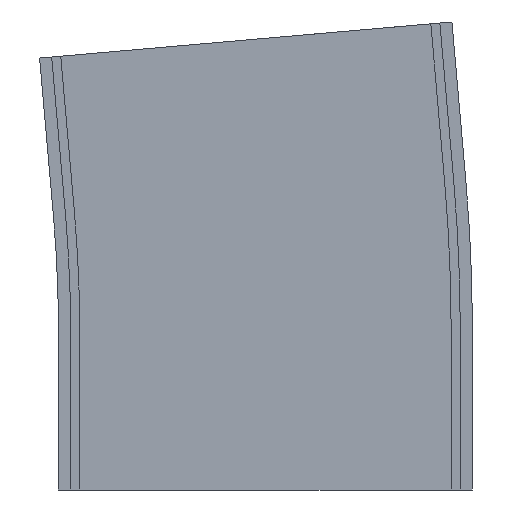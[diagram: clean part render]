
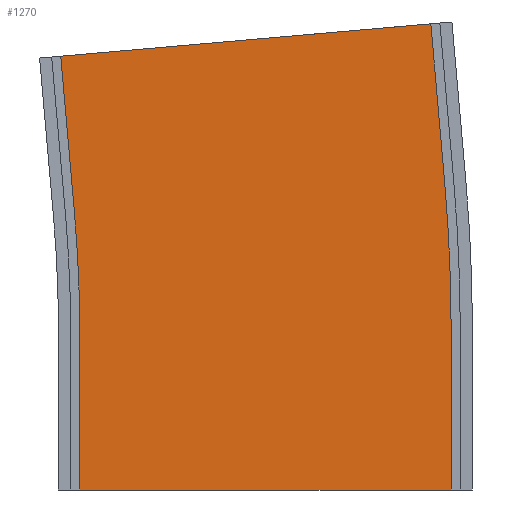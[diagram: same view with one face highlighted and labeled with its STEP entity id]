
A CAD part, left-side view. The second image highlights one B-rep face of the part: STEP entity #1270.
In plain terms, the highlighted planar face has unit normal (-1, 0, 0).
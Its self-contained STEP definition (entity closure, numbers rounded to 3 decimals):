
#6 = EDGE_CURVE ( 'NONE', #1289, #565, #1002, .T. ) ;
#31 = DIRECTION ( 'NONE',  ( -1., 0., 0. ) ) ;
#33 = CARTESIAN_POINT ( 'NONE',  ( -211.5, -61.25, 0. ) ) ;
#34 = FACE_OUTER_BOUND ( 'NONE', #956, .T. ) ;
#44 = LINE ( 'NONE', #640, #1152 ) ;
#74 = LINE ( 'NONE', #958, #452 ) ;
#84 = LINE ( 'NONE', #1332, #117 ) ;
#98 = AXIS2_PLACEMENT_3D ( 'NONE', #333, #31, #568 ) ;
#117 = VECTOR ( 'NONE', #1093, 1000. ) ;
#128 = ORIENTED_EDGE ( 'NONE', *, *, #6, .F. ) ;
#142 = VECTOR ( 'NONE', #1201, 1000. ) ;
#200 = DIRECTION ( 'NONE',  ( 0., 0.087, 0.996 ) ) ;
#226 = CARTESIAN_POINT ( 'NONE',  ( -211.5, -61.25, 52.5 ) ) ;
#253 = VERTEX_POINT ( 'NONE', #1214 ) ;
#257 = ORIENTED_EDGE ( 'NONE', *, *, #1084, .T. ) ;
#279 = DIRECTION ( 'NONE',  ( 0., 0.087, 0.996 ) ) ;
#326 = DIRECTION ( 'NONE',  ( 0., 1., 0. ) ) ;
#333 = CARTESIAN_POINT ( 'NONE',  ( -211.5, 500., 52.5 ) ) ;
#362 = VERTEX_POINT ( 'NONE', #483 ) ;
#379 = CARTESIAN_POINT ( 'NONE',  ( -211.5, 67.495, 143.04 ) ) ;
#406 = CIRCLE ( 'NONE', #1330, 438.75 ) ;
#446 = ORIENTED_EDGE ( 'NONE', *, *, #809, .T. ) ;
#452 = VECTOR ( 'NONE', #542, 1000. ) ;
#483 = CARTESIAN_POINT ( 'NONE',  ( -211.5, -59.114, 101.416 ) ) ;
#519 = CARTESIAN_POINT ( 'NONE',  ( -211.5, 62.92, 90.74 ) ) ;
#542 = DIRECTION ( 'NONE',  ( 0., 0., -1. ) ) ;
#565 = VERTEX_POINT ( 'NONE', #379 ) ;
#568 = DIRECTION ( 'NONE',  ( 0., 0., 1. ) ) ;
#596 = LINE ( 'NONE', #33, #761 ) ;
#606 = ORIENTED_EDGE ( 'NONE', *, *, #1252, .T. ) ;
#609 = CIRCLE ( 'NONE', #98, 561.25 ) ;
#640 = CARTESIAN_POINT ( 'NONE',  ( -211.5, -59.114, 101.416 ) ) ;
#647 = VERTEX_POINT ( 'NONE', #1154 ) ;
#682 = CARTESIAN_POINT ( 'NONE',  ( -211.5, -61.25, 52.5 ) ) ;
#715 = AXIS2_PLACEMENT_3D ( 'NONE', #226, #994, #326 ) ;
#718 = VERTEX_POINT ( 'NONE', #1381 ) ;
#761 = VECTOR ( 'NONE', #1215, 1000. ) ;
#809 = EDGE_CURVE ( 'NONE', #820, #362, #609, .T. ) ;
#820 = VERTEX_POINT ( 'NONE', #682 ) ;
#843 = EDGE_CURVE ( 'NONE', #565, #253, #1045, .T. ) ;
#850 = CARTESIAN_POINT ( 'NONE',  ( -211.5, 61.25, 0. ) ) ;
#858 = CARTESIAN_POINT ( 'NONE',  ( -211.5, 500., 52.5 ) ) ;
#931 = VECTOR ( 'NONE', #279, 1000. ) ;
#939 = ORIENTED_EDGE ( 'NONE', *, *, #843, .F. ) ;
#956 = EDGE_LOOP ( 'NONE', ( #1364, #1158, #446, #257, #939, #128, #1328, #606 ) ) ;
#958 = CARTESIAN_POINT ( 'NONE',  ( -211.5, -61.25, 52.5 ) ) ;
#994 = DIRECTION ( 'NONE',  ( 1., 0., 0. ) ) ;
#1002 = LINE ( 'NONE', #519, #931 ) ;
#1045 = LINE ( 'NONE', #1086, #142 ) ;
#1048 = EDGE_CURVE ( 'NONE', #647, #1289, #406, .T. ) ;
#1077 = DIRECTION ( 'NONE',  ( -1., 0., 0. ) ) ;
#1084 = EDGE_CURVE ( 'NONE', #362, #253, #44, .T. ) ;
#1086 = CARTESIAN_POINT ( 'NONE',  ( -211.5, -54.539, 153.716 ) ) ;
#1093 = DIRECTION ( 'NONE',  ( 0., 0., -1. ) ) ;
#1098 = PLANE ( 'NONE',  #715 ) ;
#1104 = EDGE_CURVE ( 'NONE', #820, #718, #74, .T. ) ;
#1152 = VECTOR ( 'NONE', #200, 1000. ) ;
#1154 = CARTESIAN_POINT ( 'NONE',  ( -211.5, 61.25, 52.5 ) ) ;
#1158 = ORIENTED_EDGE ( 'NONE', *, *, #1104, .F. ) ;
#1172 = VERTEX_POINT ( 'NONE', #850 ) ;
#1201 = DIRECTION ( 'NONE',  ( 0., -0.996, 0.087 ) ) ;
#1214 = CARTESIAN_POINT ( 'NONE',  ( -211.5, -54.539, 153.716 ) ) ;
#1215 = DIRECTION ( 'NONE',  ( 0., -1., 0. ) ) ;
#1252 = EDGE_CURVE ( 'NONE', #647, #1172, #84, .T. ) ;
#1258 = EDGE_CURVE ( 'NONE', #1172, #718, #596, .T. ) ;
#1270 = ADVANCED_FACE ( 'NONE', ( #34 ), #1098, .F. ) ;
#1289 = VERTEX_POINT ( 'NONE', #1313 ) ;
#1290 = DIRECTION ( 'NONE',  ( 0., 0., 1. ) ) ;
#1313 = CARTESIAN_POINT ( 'NONE',  ( -211.5, 62.92, 90.74 ) ) ;
#1328 = ORIENTED_EDGE ( 'NONE', *, *, #1048, .F. ) ;
#1330 = AXIS2_PLACEMENT_3D ( 'NONE', #858, #1077, #1290 ) ;
#1332 = CARTESIAN_POINT ( 'NONE',  ( -211.5, 61.25, 52.5 ) ) ;
#1364 = ORIENTED_EDGE ( 'NONE', *, *, #1258, .T. ) ;
#1381 = CARTESIAN_POINT ( 'NONE',  ( -211.5, -61.25, 0. ) ) ;
